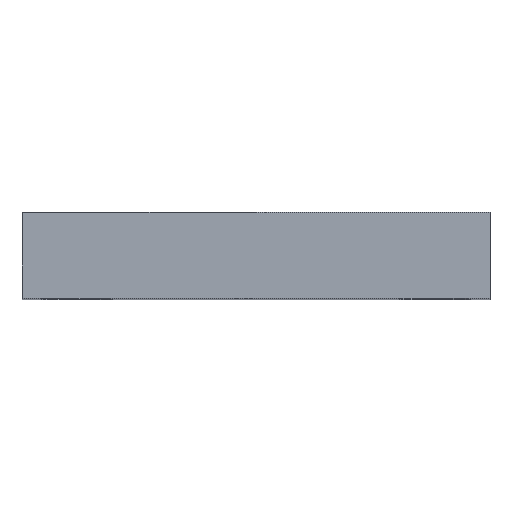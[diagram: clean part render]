
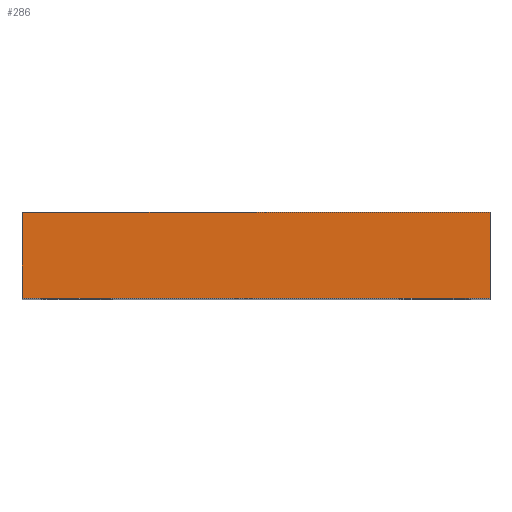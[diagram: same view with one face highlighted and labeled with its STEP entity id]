
A CAD part, top view. The second image highlights one B-rep face of the part: STEP entity #286.
In plain terms, the highlighted planar face has unit normal (0, 0, 1).
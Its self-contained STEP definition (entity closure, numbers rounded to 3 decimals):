
#44 = EDGE_CURVE ( 'NONE', #508, #207, #458, .T. ) ;
#58 = VECTOR ( 'NONE', #305, 1000. ) ;
#66 = CARTESIAN_POINT ( 'NONE',  ( -98., 36., 148. ) ) ;
#70 = DIRECTION ( 'NONE',  ( 0., -1., 0. ) ) ;
#92 = CARTESIAN_POINT ( 'NONE',  ( 98., 36., 148. ) ) ;
#100 = LINE ( 'NONE', #92, #560 ) ;
#122 = AXIS2_PLACEMENT_3D ( 'NONE', #467, #350, #698 ) ;
#127 = ORIENTED_EDGE ( 'NONE', *, *, #660, .T. ) ;
#129 = DIRECTION ( 'NONE',  ( 1., 0., 0. ) ) ;
#149 = VECTOR ( 'NONE', #129, 1000. ) ;
#183 = VECTOR ( 'NONE', #70, 1000. ) ;
#207 = VERTEX_POINT ( 'NONE', #511 ) ;
#224 = CARTESIAN_POINT ( 'NONE',  ( 98., 36., 148. ) ) ;
#228 = LINE ( 'NONE', #66, #183 ) ;
#252 = FACE_OUTER_BOUND ( 'NONE', #663, .T. ) ;
#286 = ADVANCED_FACE ( 'NONE', ( #252 ), #413, .F. ) ;
#292 = VERTEX_POINT ( 'NONE', #224 ) ;
#305 = DIRECTION ( 'NONE',  ( 1., 0., 0. ) ) ;
#350 = DIRECTION ( 'NONE',  ( 0., 0., -1. ) ) ;
#399 = DIRECTION ( 'NONE',  ( 0., -1., 0. ) ) ;
#413 = PLANE ( 'NONE',  #122 ) ;
#427 = ORIENTED_EDGE ( 'NONE', *, *, #505, .F. ) ;
#434 = ORIENTED_EDGE ( 'NONE', *, *, #742, .F. ) ;
#458 = LINE ( 'NONE', #498, #149 ) ;
#467 = CARTESIAN_POINT ( 'NONE',  ( -98., 36., 148. ) ) ;
#498 = CARTESIAN_POINT ( 'NONE',  ( -98., 0., 148. ) ) ;
#505 = EDGE_CURVE ( 'NONE', #577, #292, #661, .T. ) ;
#508 = VERTEX_POINT ( 'NONE', #542 ) ;
#511 = CARTESIAN_POINT ( 'NONE',  ( 98., 0., 148. ) ) ;
#542 = CARTESIAN_POINT ( 'NONE',  ( -98., 0., 148. ) ) ;
#545 = ORIENTED_EDGE ( 'NONE', *, *, #44, .T. ) ;
#560 = VECTOR ( 'NONE', #399, 1000. ) ;
#577 = VERTEX_POINT ( 'NONE', #678 ) ;
#660 = EDGE_CURVE ( 'NONE', #577, #508, #228, .T. ) ;
#661 = LINE ( 'NONE', #662, #58 ) ;
#662 = CARTESIAN_POINT ( 'NONE',  ( -98., 36., 148. ) ) ;
#663 = EDGE_LOOP ( 'NONE', ( #545, #434, #427, #127 ) ) ;
#678 = CARTESIAN_POINT ( 'NONE',  ( -98., 36., 148. ) ) ;
#698 = DIRECTION ( 'NONE',  ( -1., 0., 0. ) ) ;
#742 = EDGE_CURVE ( 'NONE', #292, #207, #100, .T. ) ;
